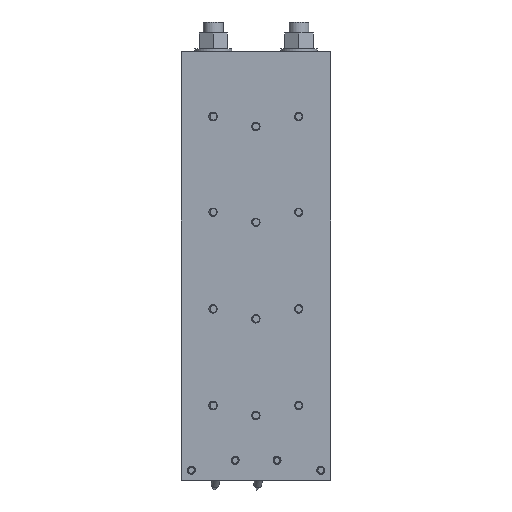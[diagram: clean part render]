
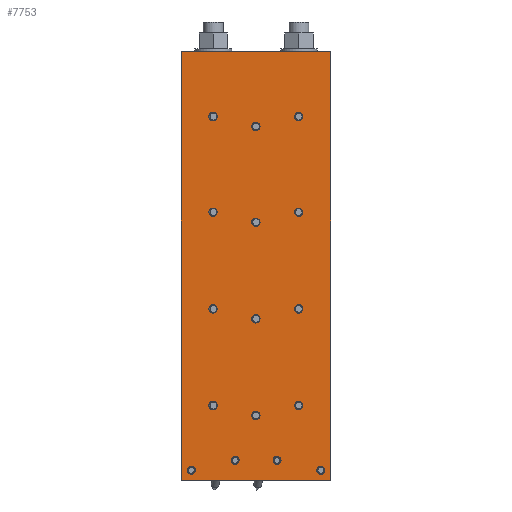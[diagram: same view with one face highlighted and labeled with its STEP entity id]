
A CAD part, top view. The second image highlights one B-rep face of the part: STEP entity #7753.
In plain terms, the highlighted planar face has unit normal (0, 0, 1) as drawn and (0, 1, 0) by its records, which use the part's own axes.
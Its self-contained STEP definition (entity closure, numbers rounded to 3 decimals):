
#548=LINE('',#13594,#1036);
#552=LINE('',#13602,#1040);
#555=LINE('',#13608,#1043);
#557=LINE('',#13611,#1045);
#1036=VECTOR('',#11461,1000.);
#1040=VECTOR('',#11467,1000.);
#1043=VECTOR('',#11472,1000.);
#1045=VECTOR('',#11476,1000.);
#1527=PLANE('',#9260);
#3333=ORIENTED_EDGE('',*,*,#4261,.F.);
#3334=ORIENTED_EDGE('',*,*,#4263,.F.);
#3335=ORIENTED_EDGE('',*,*,#4265,.F.);
#3336=ORIENTED_EDGE('',*,*,#4267,.F.);
#3337=ORIENTED_EDGE('',*,*,#4269,.F.);
#3338=ORIENTED_EDGE('',*,*,#4271,.F.);
#3339=ORIENTED_EDGE('',*,*,#4273,.F.);
#3340=ORIENTED_EDGE('',*,*,#4275,.F.);
#3341=ORIENTED_EDGE('',*,*,#4277,.F.);
#3342=ORIENTED_EDGE('',*,*,#4279,.F.);
#3343=ORIENTED_EDGE('',*,*,#4281,.F.);
#3344=ORIENTED_EDGE('',*,*,#4283,.F.);
#3345=ORIENTED_EDGE('',*,*,#4285,.F.);
#3346=ORIENTED_EDGE('',*,*,#4287,.F.);
#3347=ORIENTED_EDGE('',*,*,#4289,.F.);
#3348=ORIENTED_EDGE('',*,*,#4291,.F.);
#3349=ORIENTED_EDGE('',*,*,#4295,.T.);
#3350=ORIENTED_EDGE('',*,*,#4299,.T.);
#3351=ORIENTED_EDGE('',*,*,#4302,.T.);
#3352=ORIENTED_EDGE('',*,*,#4304,.T.);
#4261=EDGE_CURVE('',#4983,#4983,#5311,.T.);
#4263=EDGE_CURVE('',#4985,#4985,#5313,.T.);
#4265=EDGE_CURVE('',#4987,#4987,#5315,.T.);
#4267=EDGE_CURVE('',#4989,#4989,#5317,.T.);
#4269=EDGE_CURVE('',#4991,#4991,#5319,.T.);
#4271=EDGE_CURVE('',#4993,#4993,#5321,.T.);
#4273=EDGE_CURVE('',#4995,#4995,#5323,.T.);
#4275=EDGE_CURVE('',#4997,#4997,#5325,.T.);
#4277=EDGE_CURVE('',#4999,#4999,#5327,.T.);
#4279=EDGE_CURVE('',#5001,#5001,#5329,.T.);
#4281=EDGE_CURVE('',#5003,#5003,#5331,.T.);
#4283=EDGE_CURVE('',#5005,#5005,#5333,.T.);
#4285=EDGE_CURVE('',#5007,#5007,#5335,.T.);
#4287=EDGE_CURVE('',#5009,#5009,#5337,.T.);
#4289=EDGE_CURVE('',#5011,#5011,#5339,.T.);
#4291=EDGE_CURVE('',#5013,#5013,#5341,.T.);
#4295=EDGE_CURVE('',#5018,#5017,#548,.T.);
#4299=EDGE_CURVE('',#5017,#5020,#552,.T.);
#4302=EDGE_CURVE('',#5020,#5022,#555,.T.);
#4304=EDGE_CURVE('',#5022,#5018,#557,.T.);
#4983=VERTEX_POINT('',#13510);
#4985=VERTEX_POINT('',#13515);
#4987=VERTEX_POINT('',#13520);
#4989=VERTEX_POINT('',#13525);
#4991=VERTEX_POINT('',#13530);
#4993=VERTEX_POINT('',#13535);
#4995=VERTEX_POINT('',#13540);
#4997=VERTEX_POINT('',#13545);
#4999=VERTEX_POINT('',#13550);
#5001=VERTEX_POINT('',#13555);
#5003=VERTEX_POINT('',#13560);
#5005=VERTEX_POINT('',#13565);
#5007=VERTEX_POINT('',#13570);
#5009=VERTEX_POINT('',#13575);
#5011=VERTEX_POINT('',#13580);
#5013=VERTEX_POINT('',#13585);
#5017=VERTEX_POINT('',#13593);
#5018=VERTEX_POINT('',#13595);
#5020=VERTEX_POINT('',#13601);
#5022=VERTEX_POINT('',#13607);
#5311=CIRCLE('',#9209,3.324);
#5313=CIRCLE('',#9212,3.324);
#5315=CIRCLE('',#9215,3.324);
#5317=CIRCLE('',#9218,3.324);
#5319=CIRCLE('',#9221,4.188);
#5321=CIRCLE('',#9224,4.188);
#5323=CIRCLE('',#9227,4.188);
#5325=CIRCLE('',#9230,4.188);
#5327=CIRCLE('',#9233,4.188);
#5329=CIRCLE('',#9236,4.188);
#5331=CIRCLE('',#9239,4.188);
#5333=CIRCLE('',#9242,4.188);
#5335=CIRCLE('',#9245,4.188);
#5337=CIRCLE('',#9248,4.188);
#5339=CIRCLE('',#9251,4.188);
#5341=CIRCLE('',#9254,4.188);
#6207=EDGE_LOOP('',(#3333));
#6208=EDGE_LOOP('',(#3334));
#6209=EDGE_LOOP('',(#3335));
#6210=EDGE_LOOP('',(#3336));
#6211=EDGE_LOOP('',(#3337));
#6212=EDGE_LOOP('',(#3338));
#6213=EDGE_LOOP('',(#3339));
#6214=EDGE_LOOP('',(#3340));
#6215=EDGE_LOOP('',(#3341));
#6216=EDGE_LOOP('',(#3342));
#6217=EDGE_LOOP('',(#3343));
#6218=EDGE_LOOP('',(#3344));
#6219=EDGE_LOOP('',(#3345));
#6220=EDGE_LOOP('',(#3346));
#6221=EDGE_LOOP('',(#3347));
#6222=EDGE_LOOP('',(#3348));
#6223=EDGE_LOOP('',(#3349,#3350,#3351,#3352));
#7147=FACE_BOUND('',#6207,.T.);
#7148=FACE_BOUND('',#6208,.T.);
#7149=FACE_BOUND('',#6209,.T.);
#7150=FACE_BOUND('',#6210,.T.);
#7151=FACE_BOUND('',#6211,.T.);
#7152=FACE_BOUND('',#6212,.T.);
#7153=FACE_BOUND('',#6213,.T.);
#7154=FACE_BOUND('',#6214,.T.);
#7155=FACE_BOUND('',#6215,.T.);
#7156=FACE_BOUND('',#6216,.T.);
#7157=FACE_BOUND('',#6217,.T.);
#7158=FACE_BOUND('',#6218,.T.);
#7159=FACE_BOUND('',#6219,.T.);
#7160=FACE_BOUND('',#6220,.T.);
#7161=FACE_BOUND('',#6221,.T.);
#7162=FACE_BOUND('',#6222,.T.);
#7163=FACE_BOUND('',#6223,.T.);
#7753=ADVANCED_FACE('',(#7147,#7148,#7149,#7150,#7151,#7152,#7153,#7154,
#7155,#7156,#7157,#7158,#7159,#7160,#7161,#7162,#7163),#1527,.T.);
#9209=AXIS2_PLACEMENT_3D('',#13509,#11363,#11364);
#9212=AXIS2_PLACEMENT_3D('',#13514,#11369,#11370);
#9215=AXIS2_PLACEMENT_3D('',#13519,#11375,#11376);
#9218=AXIS2_PLACEMENT_3D('',#13524,#11381,#11382);
#9221=AXIS2_PLACEMENT_3D('',#13529,#11387,#11388);
#9224=AXIS2_PLACEMENT_3D('',#13534,#11393,#11394);
#9227=AXIS2_PLACEMENT_3D('',#13539,#11399,#11400);
#9230=AXIS2_PLACEMENT_3D('',#13544,#11405,#11406);
#9233=AXIS2_PLACEMENT_3D('',#13549,#11411,#11412);
#9236=AXIS2_PLACEMENT_3D('',#13554,#11417,#11418);
#9239=AXIS2_PLACEMENT_3D('',#13559,#11423,#11424);
#9242=AXIS2_PLACEMENT_3D('',#13564,#11429,#11430);
#9245=AXIS2_PLACEMENT_3D('',#13569,#11435,#11436);
#9248=AXIS2_PLACEMENT_3D('',#13574,#11441,#11442);
#9251=AXIS2_PLACEMENT_3D('',#13579,#11447,#11448);
#9254=AXIS2_PLACEMENT_3D('',#13584,#11453,#11454);
#9260=AXIS2_PLACEMENT_3D('',#13612,#11477,#11478);
#11363=DIRECTION('',(0.,1.,0.));
#11364=DIRECTION('',(0.,0.,1.));
#11369=DIRECTION('',(0.,1.,0.));
#11370=DIRECTION('',(0.,0.,1.));
#11375=DIRECTION('',(0.,1.,0.));
#11376=DIRECTION('',(0.,0.,1.));
#11381=DIRECTION('',(0.,1.,0.));
#11382=DIRECTION('',(0.,0.,1.));
#11387=DIRECTION('',(0.,1.,0.));
#11388=DIRECTION('',(0.,0.,1.));
#11393=DIRECTION('',(0.,1.,0.));
#11394=DIRECTION('',(0.,0.,1.));
#11399=DIRECTION('',(0.,1.,0.));
#11400=DIRECTION('',(0.,0.,1.));
#11405=DIRECTION('',(0.,1.,0.));
#11406=DIRECTION('',(0.,0.,1.));
#11411=DIRECTION('',(0.,1.,0.));
#11412=DIRECTION('',(0.,0.,1.));
#11417=DIRECTION('',(0.,1.,0.));
#11418=DIRECTION('',(0.,0.,1.));
#11423=DIRECTION('',(0.,1.,0.));
#11424=DIRECTION('',(0.,0.,1.));
#11429=DIRECTION('',(0.,1.,0.));
#11430=DIRECTION('',(0.,0.,1.));
#11435=DIRECTION('',(0.,1.,0.));
#11436=DIRECTION('',(0.,0.,1.));
#11441=DIRECTION('',(0.,1.,0.));
#11442=DIRECTION('',(0.,0.,1.));
#11447=DIRECTION('',(0.,1.,0.));
#11448=DIRECTION('',(0.,0.,1.));
#11453=DIRECTION('',(0.,1.,0.));
#11454=DIRECTION('',(0.,0.,1.));
#11461=DIRECTION('',(1.,0.,0.));
#11467=DIRECTION('',(0.,0.,-1.));
#11472=DIRECTION('',(-1.,0.,0.));
#11476=DIRECTION('',(0.,0.,1.));
#11477=DIRECTION('',(0.,1.,0.));
#11478=DIRECTION('',(0.,0.,1.));
#13509=CARTESIAN_POINT('',(-21.,20.,-195.));
#13510=CARTESIAN_POINT('',(-21.,20.,-191.677));
#13514=CARTESIAN_POINT('',(21.,20.,-195.));
#13515=CARTESIAN_POINT('',(21.,20.,-191.677));
#13519=CARTESIAN_POINT('',(65.,20.,-205.));
#13520=CARTESIAN_POINT('',(65.,20.,-201.677));
#13524=CARTESIAN_POINT('',(-65.,20.,-205.));
#13525=CARTESIAN_POINT('',(-65.,20.,-201.677));
#13529=CARTESIAN_POINT('',(0.,20.,-53.));
#13530=CARTESIAN_POINT('',(0.,20.,-48.812));
#13534=CARTESIAN_POINT('',(0.,20.,-150.));
#13535=CARTESIAN_POINT('',(0.,20.,-145.812));
#13539=CARTESIAN_POINT('',(0.,20.,44.));
#13540=CARTESIAN_POINT('',(0.,20.,48.188));
#13544=CARTESIAN_POINT('',(0.,20.,140.));
#13545=CARTESIAN_POINT('',(0.,20.,144.188));
#13549=CARTESIAN_POINT('',(43.,20.,-140.));
#13550=CARTESIAN_POINT('',(43.,20.,-135.812));
#13554=CARTESIAN_POINT('',(43.,20.,-43.));
#13555=CARTESIAN_POINT('',(43.,20.,-38.812));
#13559=CARTESIAN_POINT('',(43.,20.,54.));
#13560=CARTESIAN_POINT('',(43.,20.,58.188));
#13564=CARTESIAN_POINT('',(43.,20.,150.));
#13565=CARTESIAN_POINT('',(43.,20.,154.188));
#13569=CARTESIAN_POINT('',(-43.,20.,-140.));
#13570=CARTESIAN_POINT('',(-43.,20.,-135.812));
#13574=CARTESIAN_POINT('',(-43.,20.,-43.));
#13575=CARTESIAN_POINT('',(-43.,20.,-38.812));
#13579=CARTESIAN_POINT('',(-43.,20.,54.));
#13580=CARTESIAN_POINT('',(-43.,20.,58.188));
#13584=CARTESIAN_POINT('',(-43.,20.,150.));
#13585=CARTESIAN_POINT('',(-43.,20.,154.188));
#13593=CARTESIAN_POINT('',(75.,20.,215.));
#13594=CARTESIAN_POINT('',(-75.,20.,215.));
#13595=CARTESIAN_POINT('',(-75.,20.,215.));
#13601=CARTESIAN_POINT('',(75.,20.,-215.));
#13602=CARTESIAN_POINT('',(75.,20.,215.));
#13607=CARTESIAN_POINT('',(-75.,20.,-215.));
#13608=CARTESIAN_POINT('',(75.,20.,-215.));
#13611=CARTESIAN_POINT('',(-75.,20.,-215.));
#13612=CARTESIAN_POINT('',(0.,20.,0.));
